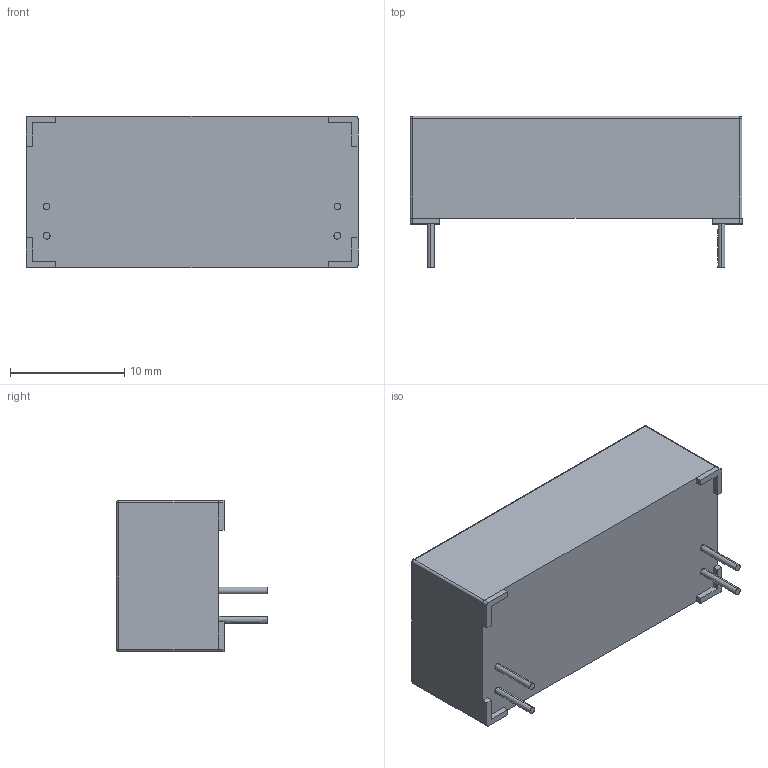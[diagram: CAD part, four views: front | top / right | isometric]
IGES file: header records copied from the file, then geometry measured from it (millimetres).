
Start section: SolidWorks IGES file using analytic representation for surfaces
Global section: file name: T:\Relays in Solidworks\Batch 3\88-1-B.IGS; native system: SolidWorks 2009; preprocessor: SolidWorks 2009; author: alex.leming; date: 100629.143536; units: millimetre
Bounding box: 29 x 13.2 x 13.2 mm (x, y, z)
Surface area: 1558.6 mm2 (no closed solid volume)
Topology: 0 solids, 0 shells, 727 faces, 7507 edges, 7507 vertices
Faces by surface type: bspline 703, revolution 24
